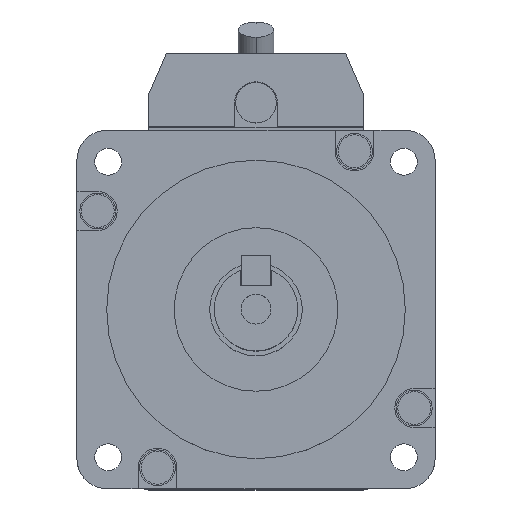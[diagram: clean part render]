
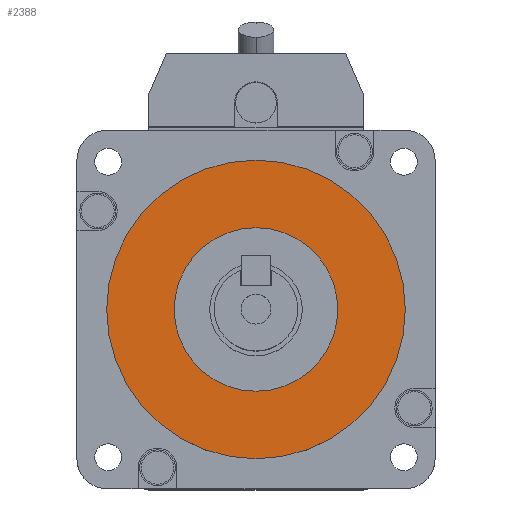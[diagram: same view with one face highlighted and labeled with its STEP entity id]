
A CAD part, top view. The second image highlights one B-rep face of the part: STEP entity #2388.
In plain terms, the highlighted planar face has unit normal (0, 0, 1).
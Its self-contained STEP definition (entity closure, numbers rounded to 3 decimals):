
#801 = EDGE_CURVE ( 'NONE', #855, #7020, #3526, .T. ) ;
#855 = VERTEX_POINT ( 'NONE', #3625 ) ;
#1068 = EDGE_CURVE ( 'NONE', #4223, #4324, #4094, .T. ) ;
#1423 = EDGE_CURVE ( 'NONE', #4324, #4223, #4533, .T. ) ;
#2388 = ADVANCED_FACE ( 'NONE', ( #5359, #5360 ), #5361, .T. ) ;
#2848 = EDGE_LOOP ( 'NONE', ( #3130, #11696 ) ) ;
#3130 = ORIENTED_EDGE ( 'NONE', *, *, #1423, .T. ) ;
#3526 = CIRCLE ( 'NONE', #3527, 25. ) ;
#3527 = AXIS2_PLACEMENT_3D ( 'NONE', #3528, #3529, #3530 ) ;
#3528 = CARTESIAN_POINT ( 'NONE',  ( 0., 0., 3. ) ) ;
#3529 = DIRECTION ( 'NONE',  ( 0., 0., -1. ) ) ;
#3530 = DIRECTION ( 'NONE',  ( -1., 0., 0. ) ) ;
#3625 = CARTESIAN_POINT ( 'NONE',  ( -25., 0., 3. ) ) ;
#4094 = CIRCLE ( 'NONE', #4095, 13.7 ) ;
#4095 = AXIS2_PLACEMENT_3D ( 'NONE', #4096, #4097, #4098 ) ;
#4096 = CARTESIAN_POINT ( 'NONE',  ( 0., 0., 3. ) ) ;
#4097 = DIRECTION ( 'NONE',  ( 0., 0., -1. ) ) ;
#4098 = DIRECTION ( 'NONE',  ( -1., 0., 0. ) ) ;
#4223 = VERTEX_POINT ( 'NONE', #5975 ) ;
#4324 = VERTEX_POINT ( 'NONE', #5981 ) ;
#4533 = CIRCLE ( 'NONE', #4534, 13.7 ) ;
#4534 = AXIS2_PLACEMENT_3D ( 'NONE', #4535, #4540, #4541 ) ;
#4535 = CARTESIAN_POINT ( 'NONE',  ( 0., 0., 3. ) ) ;
#4540 = DIRECTION ( 'NONE',  ( 0., 0., -1. ) ) ;
#4541 = DIRECTION ( 'NONE',  ( -1., 0., 0. ) ) ;
#5359 = FACE_BOUND ( 'NONE', #2848, .T. ) ;
#5360 = FACE_OUTER_BOUND ( 'NONE', #11720, .T. ) ;
#5361 = PLANE ( 'NONE',  #5362 ) ;
#5362 = AXIS2_PLACEMENT_3D ( 'NONE', #5363, #5364, #5365 ) ;
#5363 = CARTESIAN_POINT ( 'NONE',  ( 0., 25., 3. ) ) ;
#5364 = DIRECTION ( 'NONE',  ( 0., 0., 1. ) ) ;
#5365 = DIRECTION ( 'NONE',  ( 1., 0., 0. ) ) ;
#5975 = CARTESIAN_POINT ( 'NONE',  ( 13.7, 0., 3. ) ) ;
#5981 = CARTESIAN_POINT ( 'NONE',  ( -13.7, 0., 3. ) ) ;
#6631 = CARTESIAN_POINT ( 'NONE',  ( 25., 0., 3. ) ) ;
#7020 = VERTEX_POINT ( 'NONE', #6631 ) ;
#9408 = CIRCLE ( 'NONE', #9409, 25. ) ;
#9409 = AXIS2_PLACEMENT_3D ( 'NONE', #9410, #9411, #9412 ) ;
#9410 = CARTESIAN_POINT ( 'NONE',  ( 0., 0., 3. ) ) ;
#9411 = DIRECTION ( 'NONE',  ( 0., 0., -1. ) ) ;
#9412 = DIRECTION ( 'NONE',  ( -1., 0., 0. ) ) ;
#11511 = ORIENTED_EDGE ( 'NONE', *, *, #11537, .F. ) ;
#11537 = EDGE_CURVE ( 'NONE', #7020, #855, #9408, .T. ) ;
#11696 = ORIENTED_EDGE ( 'NONE', *, *, #1068, .T. ) ;
#11720 = EDGE_LOOP ( 'NONE', ( #11801, #11511 ) ) ;
#11801 = ORIENTED_EDGE ( 'NONE', *, *, #801, .F. ) ;
